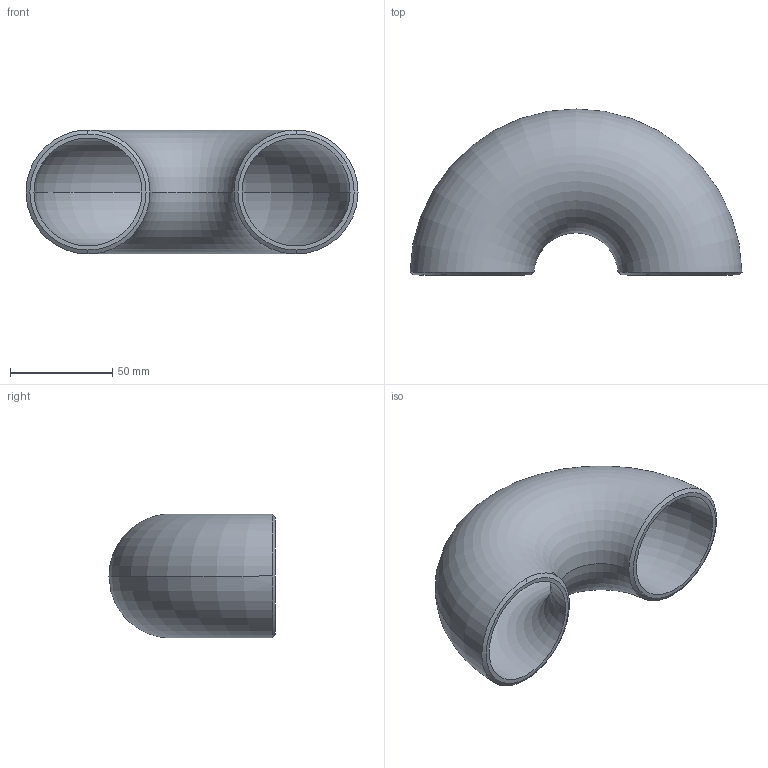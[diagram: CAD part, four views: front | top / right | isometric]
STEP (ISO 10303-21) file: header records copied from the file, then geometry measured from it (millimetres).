
FILE_DESCRIPTION (( 'STEP AP214' ), '1' );
FILE_NAME ('Elbow-short-180deg_Sch40-50A.STEP', '2021-08-25T07:44:48', ( 'ASIS User' ), ( 'ASIS User' ), 'SwSTEP 2.0', 'SolidWorks 2021', '' );
FILE_SCHEMA (( 'AUTOMOTIVE_DESIGN' ));
Length unit declared in the file: millimetre
Products named in the file (1): Elbow-short-180deg_Sch40-50A
Bounding box: 162.08 x 81.05 x 60.5 mm (x, y, z)
Volume: 110245.1 mm3; surface area: 57813.7 mm2
Topology: 1 solids, 1 shells, 10 faces, 24 edges, 16 vertices
Faces by surface type: torus 4, cone 4, plane 2
Entity records: 580 total; most frequent: CARTESIAN_POINT 309, DIRECTION 50, ORIENTED_EDGE 48, EDGE_CURVE 24, AXIS2_PLACEMENT_3D 23, VERTEX_POINT 16, EDGE_LOOP 12, CIRCLE 12
